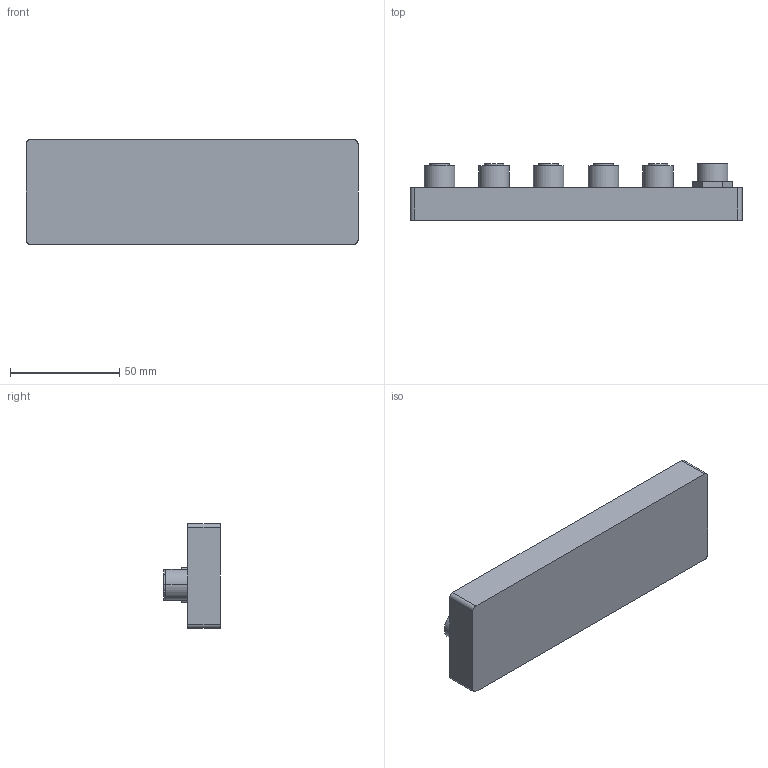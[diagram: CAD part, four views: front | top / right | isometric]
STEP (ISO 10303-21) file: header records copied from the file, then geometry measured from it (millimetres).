
FILE_DESCRIPTION(('STEP AP214'),'1');
FILE_NAME('box1m1205ma05.stp','2018-02-12T13:22:15',('TraceParts'),('TraceParts S.A.'),'Spatial InterOp 3D',' ',' ');
FILE_SCHEMA(('automotive_design'));
Length unit declared in the file: millimetre
Products named in the file (1): box1m1205ma05
Bounding box: 152 x 26 x 48 mm (x, y, z)
Volume: 116715.6 mm3; surface area: 27859 mm2
Topology: 1 solids, 1 shells, 932 faces, 2520 edges, 1680 vertices
Faces by surface type: plane 797, cylinder 135
Entity records: 28939 total; most frequent: CARTESIAN_POINT 5133, ORIENTED_EDGE 5040, DIRECTION 4666, EDGE_CURVE 2520, LINE 2240, VECTOR 2240, VERTEX_POINT 1680, AXIS2_PLACEMENT_3D 1213
